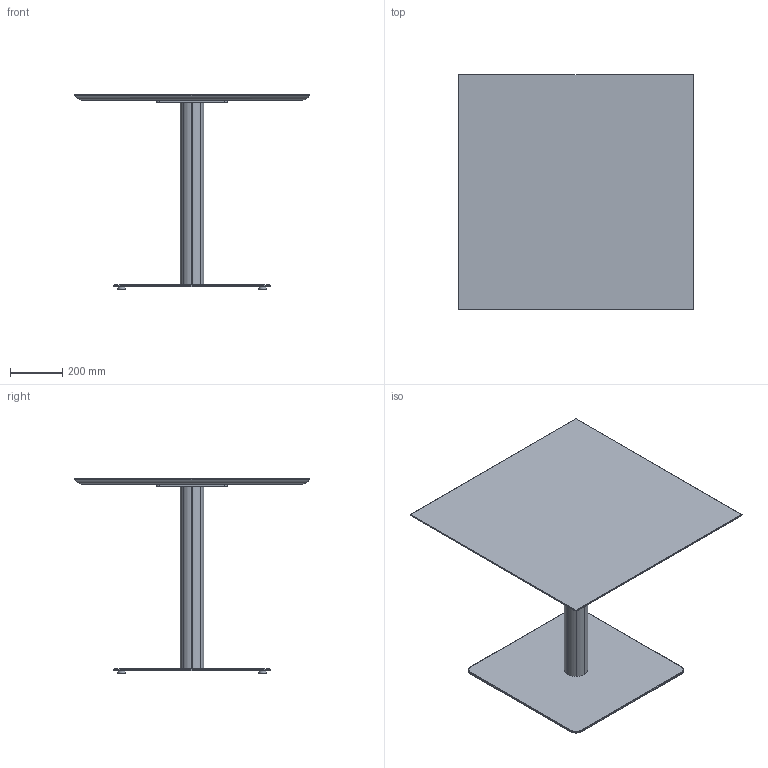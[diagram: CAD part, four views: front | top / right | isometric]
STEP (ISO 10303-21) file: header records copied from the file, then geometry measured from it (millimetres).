
FILE_DESCRIPTION( ('This file contains a STEP AP42 implementation' ,'as created by ZW3D STEP Interface translator.') ,'2;1' );
FILE_NAME( 'Fut - B_Carré - F4 - M3 - 900 x 900 x 750.stp' ,'24 911.163725', (''), ('ZWCAD Software Co.'), 'Version 1.0', 'ZW3D to STEP translator', '' );
FILE_SCHEMA(('AUTOMOTIVE_DESIGN { 1 0 10303 214 1 1 1 1 }'));
Length unit declared in the file: millimetre
Products named in the file (15): 0; PIED BISTROT PARAMETRIQUE_; CROIX ACIER 370 V.02_; CRX-X370-02_; SOCLE ACIER L 600x600 V.02_; SCL-R600-02_; PLA-R30A-01_; PLA-R30A-01; COLONNE ACIER Ø48.5 V.02_; TUB-D048-02_; PLA-R48A-01_; COLONNE BOIS PARAMETIQUE_; WUERTH 0276063020 Euro-screw 6.3x2 Verzinkt_; PLATEAU BISTROT PARAMETRIQUE_; insert_m6_13_
Assembly tree (23 placements, depth 3):
  0
  PIED BISTROT PARAMETRIQUE_
    CROIX ACIER 370 V.02_
      CRX-X370-02_
    SOCLE ACIER L 600x600 V.02_
      SCL-R600-02_
      PLA-R30A-01_
      PLA-R30A-01  x3
    COLONNE ACIER Ø48.5 V.02_
      TUB-D048-02_
      PLA-R48A-01_  x2
    COLONNE BOIS PARAMETIQUE_
    WUERTH 0276063020 Euro-screw 6.3x2 Verzinkt_
    PLATEAU BISTROT PARAMETRIQUE_
      insert_m6_13_  x8
Bounding box: 900 x 900 x 744 mm (x, y, z)
Volume: 22033610.2 mm3; surface area: 3175408.3 mm2
Topology: 23 solids, 23 shells, 557 faces, 1354 edges, 850 vertices
Faces by surface type: plane 278, bspline 125, cylinder 108, cone 45, torus 1
Full cylindrical faces by diameter (mm): 4.88 x1, 6 x8, 6.3 x1, 8 x45, 12 x2, 14 x2, 30 x4, 44.5 x3, 48.5 x1
Entity records: 13051 total; most frequent: CARTESIAN_POINT 3597, ORIENTED_EDGE 1722, DIRECTION 1592, EDGE_CURVE 861, VERTEX_POINT 552, VECTOR 550, LINE 550, AXIS2_PLACEMENT_3D 521
